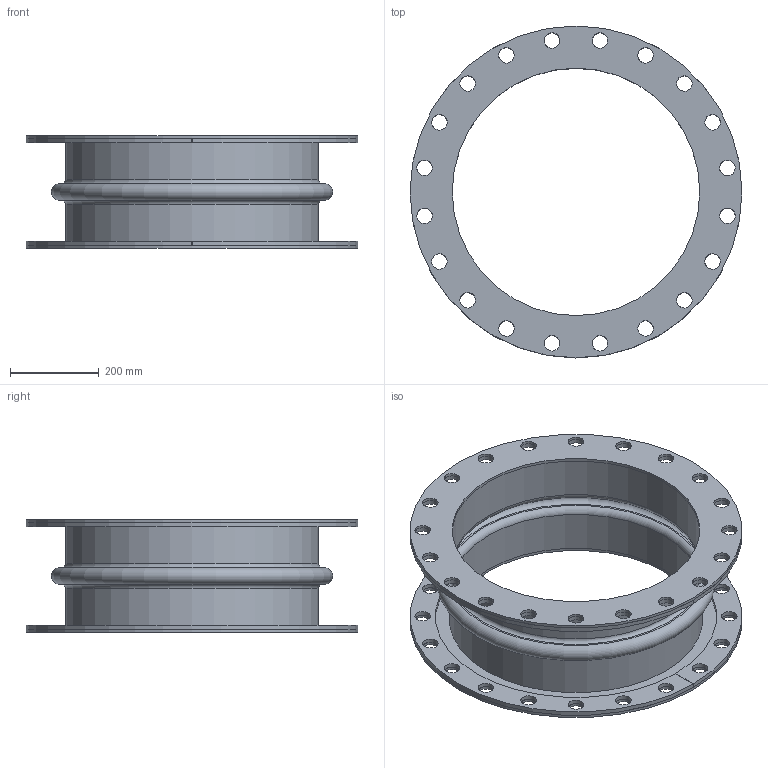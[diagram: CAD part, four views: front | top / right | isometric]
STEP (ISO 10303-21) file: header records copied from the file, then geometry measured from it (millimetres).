
FILE_DESCRIPTION(/* description */ (''),/* implementation_level */ '2;1');
FILE_NAME(/* name */ '22x10.stp',/* time_stamp */ '2026-07-21T16:22:20-05:00',/* author */ ('linda'),/* organization */ (''),/* preprocessor_version */ 'ST-DEVELOPER v20.1',/* originating_system */ 'Autodesk Inventor 2026',/* authorisation */ '');
FILE_SCHEMA (('AUTOMOTIVE_DESIGN { 1 0 10303 214 3 1 1 }'));
Length unit declared in the file: inch
Products named in the file (1): Part16
Bounding box: 749.3 x 749.3 x 254 mm (x, y, z)
Volume: 7471051.9 mm3; surface area: 2330036.6 mm2
Topology: 5 solids, 5 shells, 126 faces, 330 edges, 220 vertices
Faces by surface type: cylinder 96, plane 24, torus 6
Full cylindrical faces by diameter (mm): 35.052 x80, 558.8 x4, 571.5 x2, 749.3 x2
Entity records: 4513 total; most frequent: DIRECTION 794, CARTESIAN_POINT 677, ORIENTED_EDGE 660, AXIS2_PLACEMENT_3D 337, EDGE_CURVE 330, EDGE_LOOP 294, VERTEX_POINT 220, CIRCLE 210
